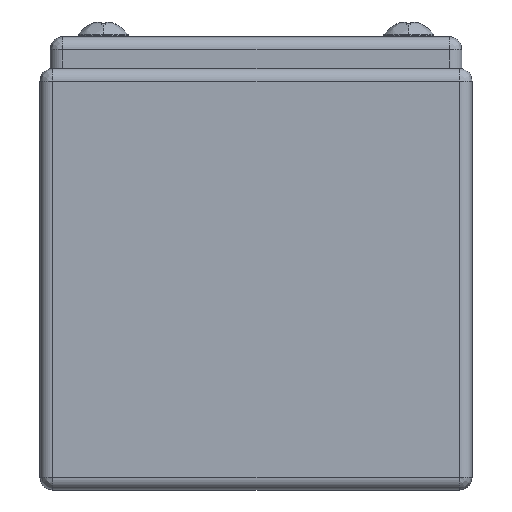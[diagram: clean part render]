
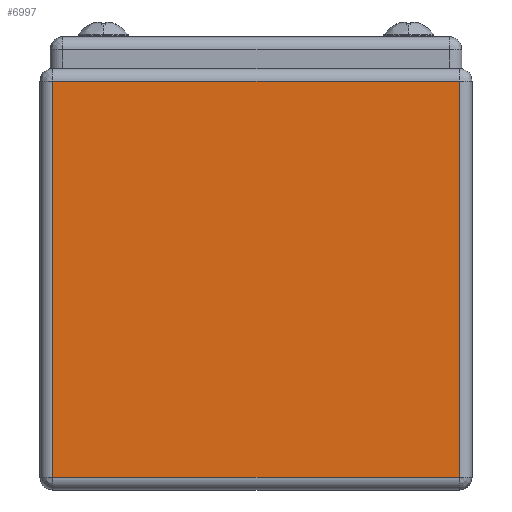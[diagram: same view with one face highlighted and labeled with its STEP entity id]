
A CAD part, left-side view. The second image highlights one B-rep face of the part: STEP entity #6997.
In plain terms, the highlighted planar face has unit normal (-1, 0, 0).
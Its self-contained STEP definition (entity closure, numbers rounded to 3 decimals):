
#628 = DIRECTION ( 'NONE',  ( 1., 0., 0. ) ) ;
#1749 = AXIS2_PLACEMENT_3D ( 'NONE', #8308, #628, #8045 ) ;
#2321 = FACE_OUTER_BOUND ( 'NONE', #17819, .T. ) ;
#2349 = VERTEX_POINT ( 'NONE', #17569 ) ;
#3191 = ORIENTED_EDGE ( 'NONE', *, *, #4340, .F. ) ;
#4340 = EDGE_CURVE ( 'NONE', #2349, #9484, #15851, .T. ) ;
#4531 = DIRECTION ( 'NONE',  ( 0., -1., 0. ) ) ;
#4996 = DIRECTION ( 'NONE',  ( 0., 0., 1. ) ) ;
#5236 = CARTESIAN_POINT ( 'NONE',  ( 0., 2.4, 78.8 ) ) ;
#6413 = ORIENTED_EDGE ( 'NONE', *, *, #10812, .F. ) ;
#6866 = LINE ( 'NONE', #9158, #8060 ) ;
#6997 = ADVANCED_FACE ( 'NONE', ( #2321 ), #11055, .F. ) ;
#7243 = LINE ( 'NONE', #13741, #17280 ) ;
#8045 = DIRECTION ( 'NONE',  ( 0., 0., -1. ) ) ;
#8060 = VECTOR ( 'NONE', #15211, 1000. ) ;
#8308 = CARTESIAN_POINT ( 'NONE',  ( 0., 0., 78.8 ) ) ;
#9158 = CARTESIAN_POINT ( 'NONE',  ( 0., 0., 2.4 ) ) ;
#9484 = VERTEX_POINT ( 'NONE', #10325 ) ;
#9890 = CARTESIAN_POINT ( 'NONE',  ( 0., 79.6, 77.6 ) ) ;
#9989 = CARTESIAN_POINT ( 'NONE',  ( 0., 79.6, 2.4 ) ) ;
#10325 = CARTESIAN_POINT ( 'NONE',  ( 0., 2.4, 2.4 ) ) ;
#10812 = EDGE_CURVE ( 'NONE', #9484, #11154, #6866, .T. ) ;
#11055 = PLANE ( 'NONE',  #1749 ) ;
#11154 = VERTEX_POINT ( 'NONE', #9989 ) ;
#11479 = ORIENTED_EDGE ( 'NONE', *, *, #17689, .F. ) ;
#11657 = VERTEX_POINT ( 'NONE', #9890 ) ;
#11764 = VECTOR ( 'NONE', #4996, 1000. ) ;
#12474 = CARTESIAN_POINT ( 'NONE',  ( 0., 79.6, 78.8 ) ) ;
#13732 = EDGE_CURVE ( 'NONE', #11657, #2349, #7243, .T. ) ;
#13741 = CARTESIAN_POINT ( 'NONE',  ( 0., 0., 77.6 ) ) ;
#15211 = DIRECTION ( 'NONE',  ( 0., 1., 0. ) ) ;
#15838 = LINE ( 'NONE', #12474, #11764 ) ;
#15851 = LINE ( 'NONE', #5236, #18472 ) ;
#16006 = DIRECTION ( 'NONE',  ( 0., 0., -1. ) ) ;
#16008 = ORIENTED_EDGE ( 'NONE', *, *, #13732, .F. ) ;
#17280 = VECTOR ( 'NONE', #4531, 1000. ) ;
#17569 = CARTESIAN_POINT ( 'NONE',  ( 0., 2.4, 77.6 ) ) ;
#17689 = EDGE_CURVE ( 'NONE', #11154, #11657, #15838, .T. ) ;
#17819 = EDGE_LOOP ( 'NONE', ( #3191, #16008, #11479, #6413 ) ) ;
#18472 = VECTOR ( 'NONE', #16006, 1000. ) ;
